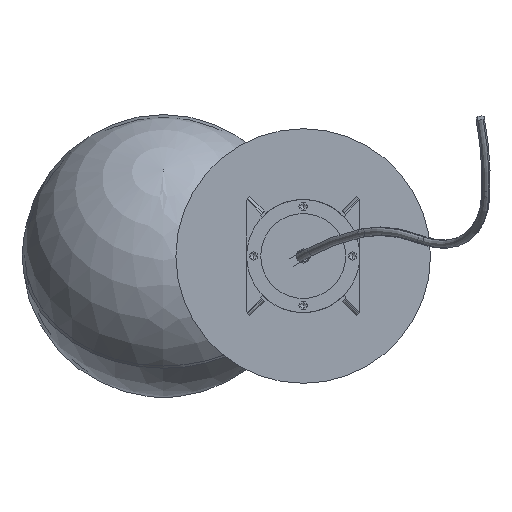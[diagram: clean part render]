
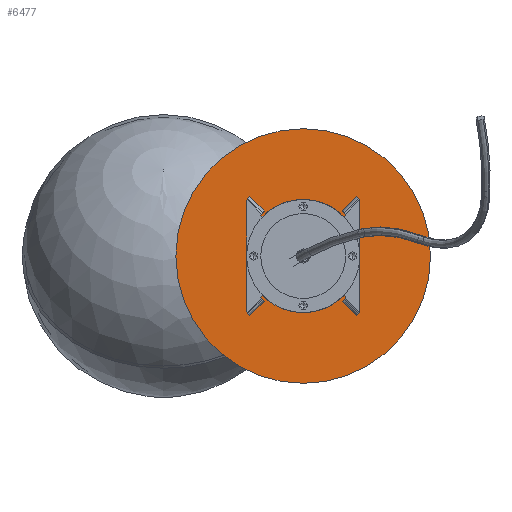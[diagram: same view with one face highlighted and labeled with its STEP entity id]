
A CAD part, front view. The second image highlights one B-rep face of the part: STEP entity #6477.
In plain terms, the highlighted planar face has unit normal (0, -1, 0) as drawn and (0, 1, 0) by its records, which use the part's own axes.
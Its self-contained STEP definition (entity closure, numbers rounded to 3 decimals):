
#5 = CARTESIAN_POINT ( 'NONE',  ( 35., 2., 0. ) ) ;
#43 = DIRECTION ( 'NONE',  ( 0., 0., 1. ) ) ;
#111 = DIRECTION ( 'NONE',  ( 0., 0., 1. ) ) ;
#290 = DIRECTION ( 'NONE',  ( 0., 1., 0. ) ) ;
#718 = CARTESIAN_POINT ( 'NONE',  ( -35., 2., 0. ) ) ;
#774 = DIRECTION ( 'NONE',  ( 0., 0., 1. ) ) ;
#1103 = CARTESIAN_POINT ( 'NONE',  ( -35., 2., 2.75 ) ) ;
#1204 = VERTEX_POINT ( 'NONE', #1103 ) ;
#1262 = AXIS2_PLACEMENT_3D ( 'NONE', #718, #3176, #774 ) ;
#1272 = CARTESIAN_POINT ( 'NONE',  ( 0., 2., 0. ) ) ;
#1317 = EDGE_LOOP ( 'NONE', ( #10207, #8999 ) ) ;
#1546 = CIRCLE ( 'NONE', #5645, 2.75 ) ;
#1550 = AXIS2_PLACEMENT_3D ( 'NONE', #1727, #2531, #8344 ) ;
#1727 = CARTESIAN_POINT ( 'NONE',  ( 0., 2., 0. ) ) ;
#1743 = CIRCLE ( 'NONE', #10110, 7. ) ;
#1745 = CARTESIAN_POINT ( 'NONE',  ( 0., 2., 90. ) ) ;
#1768 = AXIS2_PLACEMENT_3D ( 'NONE', #2569, #5773, #111 ) ;
#1923 = FACE_BOUND ( 'NONE', #7059, .T. ) ;
#2377 = ORIENTED_EDGE ( 'NONE', *, *, #3013, .F. ) ;
#2410 = CIRCLE ( 'NONE', #6317, 2.75 ) ;
#2531 = DIRECTION ( 'NONE',  ( 0., -1., 0. ) ) ;
#2563 = EDGE_CURVE ( 'NONE', #10445, #1204, #9627, .T. ) ;
#2569 = CARTESIAN_POINT ( 'NONE',  ( 0., 2., 0. ) ) ;
#2853 = DIRECTION ( 'NONE',  ( 0., 0., 1. ) ) ;
#2862 = ORIENTED_EDGE ( 'NONE', *, *, #10053, .F. ) ;
#2872 = DIRECTION ( 'NONE',  ( 0., 1., 0. ) ) ;
#2890 = CARTESIAN_POINT ( 'NONE',  ( 0., 2., 7. ) ) ;
#2926 = ORIENTED_EDGE ( 'NONE', *, *, #4870, .T. ) ;
#3013 = EDGE_CURVE ( 'NONE', #1204, #10445, #3828, .T. ) ;
#3110 = CIRCLE ( 'NONE', #8733, 90. ) ;
#3176 = DIRECTION ( 'NONE',  ( 0., 1., 0. ) ) ;
#3273 = DIRECTION ( 'NONE',  ( 0., 1., 0. ) ) ;
#3792 = CARTESIAN_POINT ( 'NONE',  ( 0., 2., -7. ) ) ;
#3828 = CIRCLE ( 'NONE', #1262, 2.75 ) ;
#3847 = EDGE_LOOP ( 'NONE', ( #5187, #2862 ) ) ;
#4198 = CARTESIAN_POINT ( 'NONE',  ( 35., 2., 2.75 ) ) ;
#4605 = EDGE_CURVE ( 'NONE', #10092, #7578, #3110, .T. ) ;
#4613 = EDGE_CURVE ( 'NONE', #7578, #10092, #9084, .T. ) ;
#4687 = VERTEX_POINT ( 'NONE', #3792 ) ;
#4703 = CARTESIAN_POINT ( 'NONE',  ( 0., 2., 0. ) ) ;
#4822 = VERTEX_POINT ( 'NONE', #4861 ) ;
#4861 = CARTESIAN_POINT ( 'NONE',  ( 35., 2., -2.75 ) ) ;
#4870 = EDGE_CURVE ( 'NONE', #4687, #5906, #1743, .T. ) ;
#4904 = CARTESIAN_POINT ( 'NONE',  ( 0., 2., -90. ) ) ;
#5187 = ORIENTED_EDGE ( 'NONE', *, *, #8447, .F. ) ;
#5195 = AXIS2_PLACEMENT_3D ( 'NONE', #10177, #290, #2853 ) ;
#5197 = PLANE ( 'NONE',  #1768 ) ;
#5336 = AXIS2_PLACEMENT_3D ( 'NONE', #1272, #10248, #6180 ) ;
#5645 = AXIS2_PLACEMENT_3D ( 'NONE', #10196, #2872, #9385 ) ;
#5773 = DIRECTION ( 'NONE',  ( 0., 1., 0. ) ) ;
#5906 = VERTEX_POINT ( 'NONE', #2890 ) ;
#5978 = FACE_BOUND ( 'NONE', #10300, .T. ) ;
#6124 = CARTESIAN_POINT ( 'NONE',  ( 0., 2., 0. ) ) ;
#6180 = DIRECTION ( 'NONE',  ( 0., 0., 1. ) ) ;
#6317 = AXIS2_PLACEMENT_3D ( 'NONE', #5, #3273, #6627 ) ;
#6477 = ADVANCED_FACE ( 'NONE', ( #5978, #8333, #9888, #1923 ), #5197, .T. ) ;
#6627 = DIRECTION ( 'NONE',  ( 0., 0., 1. ) ) ;
#7050 = DIRECTION ( 'NONE',  ( 0., 0., 1. ) ) ;
#7059 = EDGE_LOOP ( 'NONE', ( #9987, #2377 ) ) ;
#7578 = VERTEX_POINT ( 'NONE', #4904 ) ;
#7964 = EDGE_CURVE ( 'NONE', #5906, #4687, #9050, .T. ) ;
#8333 = FACE_BOUND ( 'NONE', #3847, .T. ) ;
#8344 = DIRECTION ( 'NONE',  ( 0., 0., 1. ) ) ;
#8447 = EDGE_CURVE ( 'NONE', #4822, #10563, #2410, .T. ) ;
#8625 = CARTESIAN_POINT ( 'NONE',  ( -35., 2., -2.75 ) ) ;
#8733 = AXIS2_PLACEMENT_3D ( 'NONE', #6124, #9391, #7050 ) ;
#8923 = ORIENTED_EDGE ( 'NONE', *, *, #7964, .T. ) ;
#8999 = ORIENTED_EDGE ( 'NONE', *, *, #4605, .T. ) ;
#9050 = CIRCLE ( 'NONE', #1550, 7. ) ;
#9066 = DIRECTION ( 'NONE',  ( 0., -1., 0. ) ) ;
#9084 = CIRCLE ( 'NONE', #5336, 90. ) ;
#9385 = DIRECTION ( 'NONE',  ( 0., 0., 1. ) ) ;
#9391 = DIRECTION ( 'NONE',  ( 0., 1., 0. ) ) ;
#9627 = CIRCLE ( 'NONE', #5195, 2.75 ) ;
#9888 = FACE_OUTER_BOUND ( 'NONE', #1317, .T. ) ;
#9987 = ORIENTED_EDGE ( 'NONE', *, *, #2563, .F. ) ;
#10053 = EDGE_CURVE ( 'NONE', #10563, #4822, #1546, .T. ) ;
#10092 = VERTEX_POINT ( 'NONE', #1745 ) ;
#10110 = AXIS2_PLACEMENT_3D ( 'NONE', #4703, #9066, #43 ) ;
#10177 = CARTESIAN_POINT ( 'NONE',  ( -35., 2., 0. ) ) ;
#10196 = CARTESIAN_POINT ( 'NONE',  ( 35., 2., 0. ) ) ;
#10207 = ORIENTED_EDGE ( 'NONE', *, *, #4613, .T. ) ;
#10248 = DIRECTION ( 'NONE',  ( 0., 1., 0. ) ) ;
#10300 = EDGE_LOOP ( 'NONE', ( #8923, #2926 ) ) ;
#10445 = VERTEX_POINT ( 'NONE', #8625 ) ;
#10563 = VERTEX_POINT ( 'NONE', #4198 ) ;
